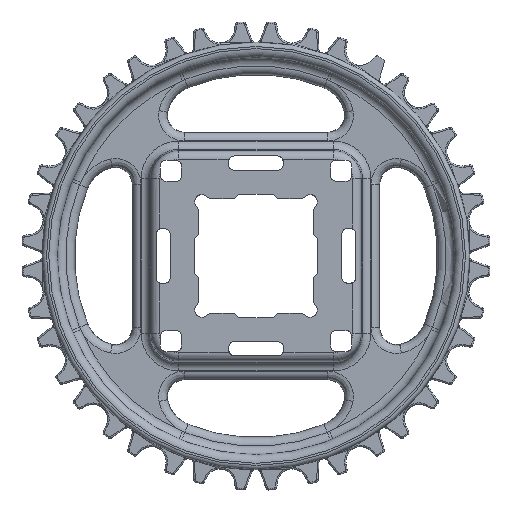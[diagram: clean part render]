
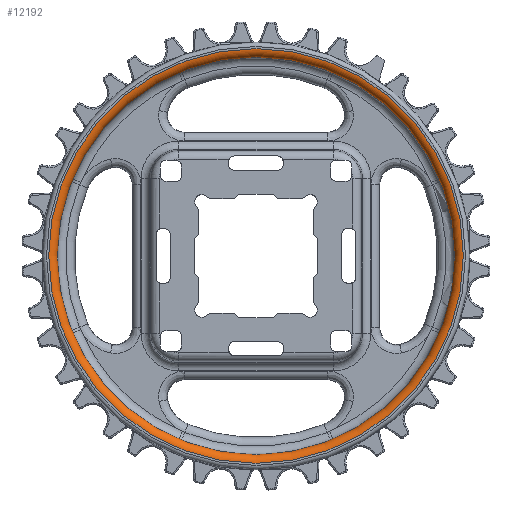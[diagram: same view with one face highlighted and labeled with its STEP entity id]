
A CAD part, top view. The second image highlights one B-rep face of the part: STEP entity #12192.
In plain terms, the highlighted toroidal (fillet/blend) face has major radius 72.97 mm and minor radius 2.999 mm.
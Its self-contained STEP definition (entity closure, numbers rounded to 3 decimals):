
#9585=TOROIDAL_SURFACE('',#30397,72.97,2.999);
#12192=ADVANCED_FACE('',(#13753,#13754),#9585,.T.);
#13753=FACE_BOUND('',#13875,.T.);
#13754=FACE_BOUND('',#13876,.T.);
#13875=EDGE_LOOP('',(#17827));
#13876=EDGE_LOOP('',(#17828));
#17827=ORIENTED_EDGE('',*,*,#26063,.F.);
#17828=ORIENTED_EDGE('',*,*,#26133,.F.);
#24076=VERTEX_POINT('',#41130);
#24134=VERTEX_POINT('',#41356);
#26063=EDGE_CURVE('',#24076,#24076,#28923,.T.);
#26133=EDGE_CURVE('',#24134,#24134,#28945,.T.);
#28923=CIRCLE('',#30326,72.97);
#28945=CIRCLE('',#30358,69.982);
#30326=AXIS2_PLACEMENT_3D('',#41129,#32992,#32993);
#30358=AXIS2_PLACEMENT_3D('',#41355,#33080,#33081);
#30397=AXIS2_PLACEMENT_3D('',#42219,#33158,#33159);
#32992=DIRECTION('',(0.,0.,-1.));
#32993=DIRECTION('',(-1.,0.,0.));
#33080=DIRECTION('',(0.,0.,1.));
#33081=DIRECTION('',(1.,0.,0.));
#33158=DIRECTION('',(0.,0.,-1.));
#33159=DIRECTION('',(-1.,0.,0.));
#41129=CARTESIAN_POINT('',(0.,0.,12.277));
#41130=CARTESIAN_POINT('',(-72.97,0.,12.277));
#41355=CARTESIAN_POINT('',(0.,0.,9.54));
#41356=CARTESIAN_POINT('',(69.982,0.,9.54));
#42219=CARTESIAN_POINT('',(0.,0.,9.278));
